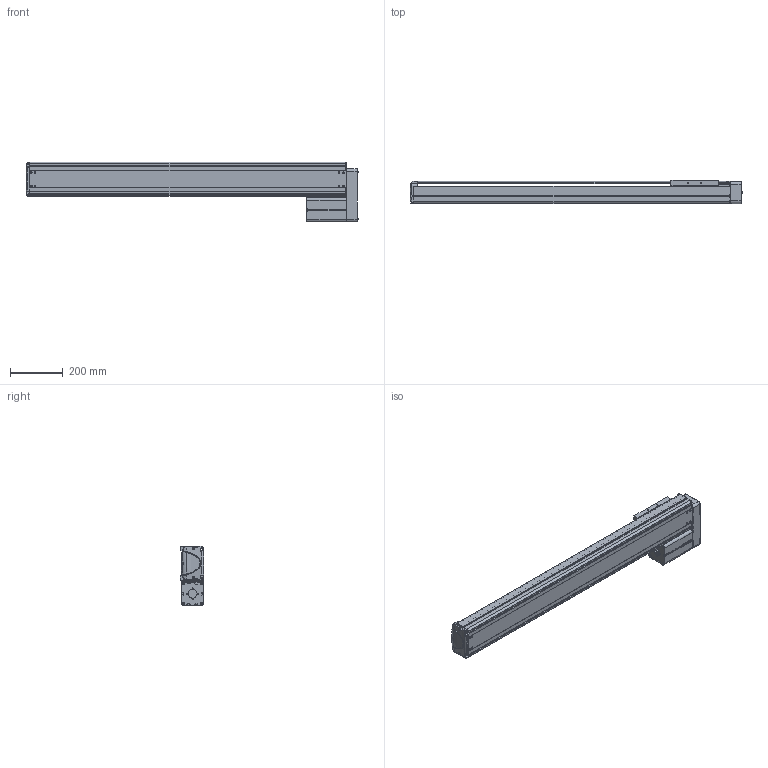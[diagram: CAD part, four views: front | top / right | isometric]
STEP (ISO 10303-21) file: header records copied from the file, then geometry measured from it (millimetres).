
FILE_DESCRIPTION((''),'2;1');
FILE_NAME('BE30E-UL-L_N-95_IGS_PRT','2017-06-17T',(' '),(''),'PRO/ENGINEER BY PARAMETRIC TECHNOLOGY CORPORATION, 2015030','PRO/ENGINEER BY PARAMETRIC TECHNOLOGY CORPORATION, 2015030','');
FILE_SCHEMA(('CONFIG_CONTROL_DESIGN'));
Length unit declared in the file: millimetre
Products named in the file (1): BE30E-UL-L_N-95_IGS_PRT
Bounding box: 1261.9 x 89.8 x 227 mm (x, y, z)
Volume: 4173824.7 mm3; surface area: 1756072.4 mm2
Topology: 2 solids, 133 shells, 2085 faces, 5638 edges, 3670 vertices
Faces by surface type: plane 1004, cylinder 891, cone 101, torus 37, bspline 28, sphere 24
Entity records: 67745 total; most frequent: CARTESIAN_POINT 14384, DIRECTION 11281, ORIENTED_EDGE 10701, EDGE_CURVE 5600, AXIS2_PLACEMENT_3D 3996, VERTEX_POINT 3670, VECTOR 3289, LINE 3289
